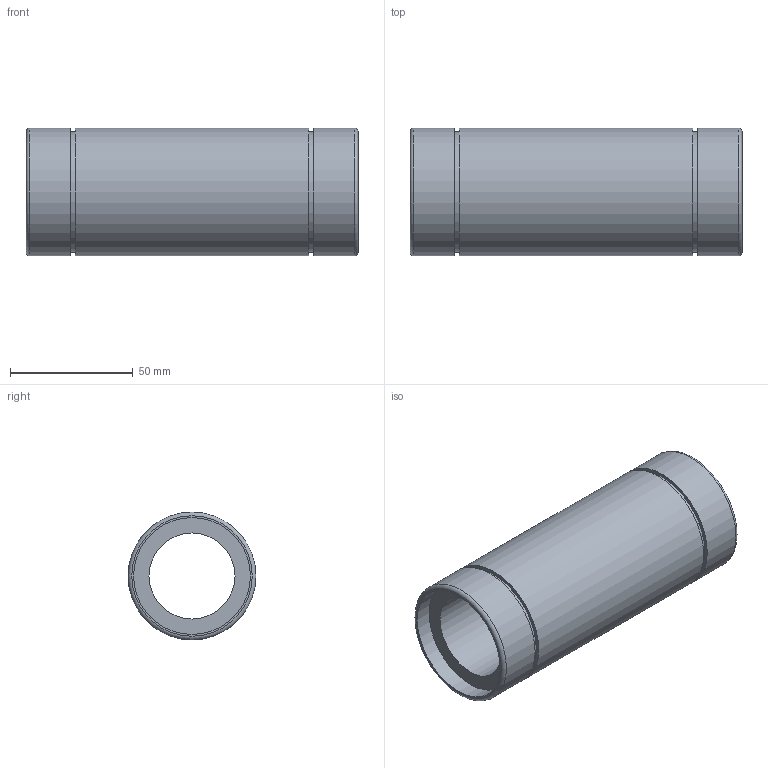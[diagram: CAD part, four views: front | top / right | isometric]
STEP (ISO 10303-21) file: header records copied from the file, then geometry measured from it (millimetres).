
FILE_DESCRIPTION( ( 'Unknown' ), '1' );
FILE_NAME( 'D:/累诀/己绕皋墨飘肺葱胶/11-04-06_档搁累己/01_府聪绢何教/LM L/LM 35L.stp', 'Unknown', ( 'Unknown' ), ( 'Unknown' ), 'PSStep 11.0', 'Unknown', ' ' );
FILE_SCHEMA( ( 'AUTOMOTIVE_DESIGN { 1 0 10303 214 1 1 1 1 }' ) );
Length unit declared in the file: millimetre
Products named in the file (1): 1
Bounding box: 135 x 52 x 52 mm (x, y, z)
Volume: 144727.1 mm3; surface area: 40451.3 mm2
Topology: 1 solids, 1 shells, 18 faces, 31 edges, 21 vertices
Faces by surface type: plane 8, cylinder 8, torus 2
Full cylindrical faces by diameter (mm): 35 x1, 47.5 x2, 49 x2, 52 x3
Entity records: 528 total; most frequent: DIRECTION 74, CARTESIAN_POINT 55, AXIS2_PLACEMENT_3D 37, EDGE_LOOP 36, ORIENTED_EDGE 36, FACE_OUTER_BOUND 28, STYLED_ITEM 18, PRESENTATION_STYLE_ASSIGNMENT 18
